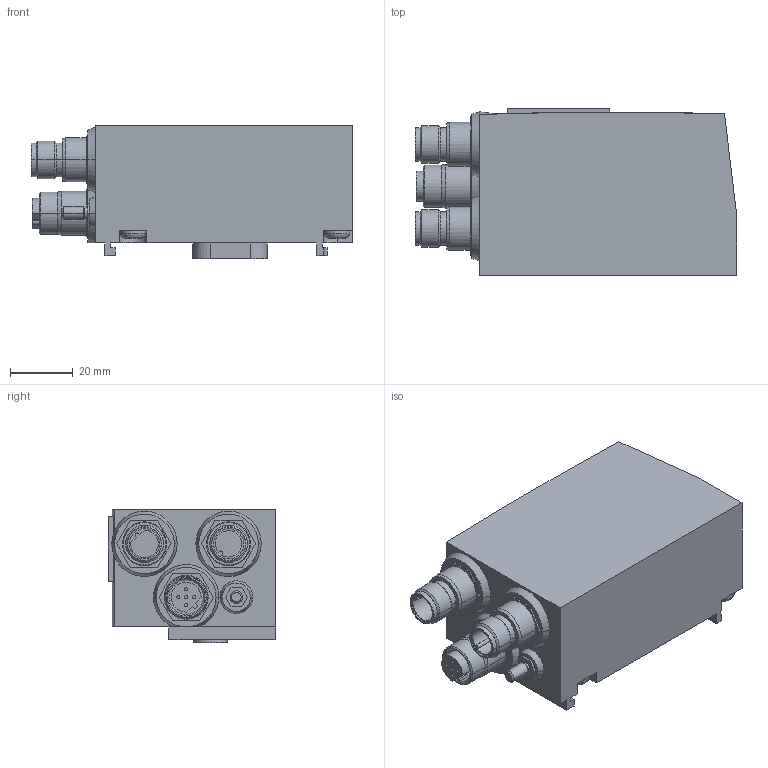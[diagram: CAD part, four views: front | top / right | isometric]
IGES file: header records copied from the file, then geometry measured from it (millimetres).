
Start section:  PTC IGES file: r412018218.igs
Global section: file name: r412018218.igs; native system: Creo Elements/Pro by Parametric Technology Corporation; preprocessor: 2012421; author: tng2hc; organization: Unknown; date: 20170209.143212; units: millimetre
Bounding box: 102.5 x 53.3 x 42.5 mm (x, y, z)
Surface area: 23504.4 mm2 (no closed solid volume)
Topology: 0 solids, 0 shells, 196 faces, 914 edges, 912 vertices
Faces by surface type: bspline 100, revolution 96
